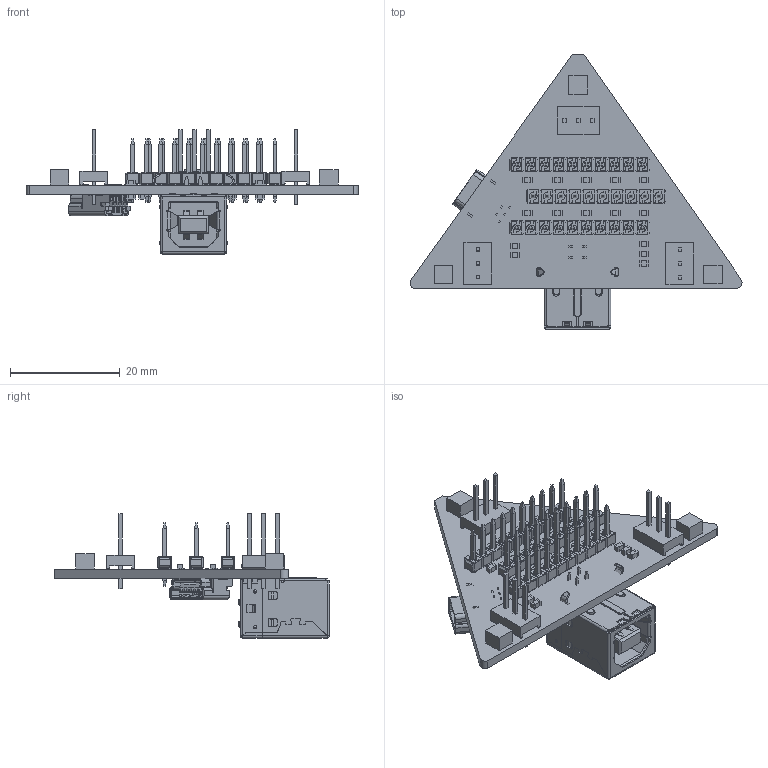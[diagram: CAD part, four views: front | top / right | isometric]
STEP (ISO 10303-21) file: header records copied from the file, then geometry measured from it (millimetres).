
FILE_DESCRIPTION(('Open CASCADE Model'),'2;1');
FILE_NAME('Open CASCADE Shape Model','2019-08-21T21:48:14',('Author'),( 'Open CASCADE'),'Open CASCADE STEP processor 6.5','Open CASCADE 6.5' ,'Unknown');
FILE_SCHEMA(('AUTOMOTIVE_DESIGN { 1 0 10303 214 1 1 1 1 }'));
Length unit declared in the file: millimetre
Products named in the file (62): PCB; Board; R30; 1089753584; Extruded; 1089753072; R29; R28; R27; R26; R25; R24; R23; R22; R21; R20; R19; R18; R17; R16; R15; R14; R13; R12; R11; R10; R9; R8; R7; R6; R5; R4; R3; R2; R1; LED3; 1090105536; LED2; LED1; J6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
Assembly tree (157 placements, depth 4):
  PCB
    Board
    R30
      1089753584  x2
        Extruded
      1089753072
        Extruded
    R29
      1089753584  x2
        Extruded
      1089753072
        Extruded
    R28
      1089753584  x2
        Extruded
      1089753072
        Extruded
    R27
      1089753584  x2
        Extruded
      1089753072
        Extruded
    R26
      1089753584  x2
        Extruded
      1089753072
        Extruded
    R25
      1089753584  x2
        Extruded
      1089753072
        Extruded
    R24
      1089753584  x2
        Extruded
      1089753072
        Extruded
    R23
      1089753584  x2
        Extruded
      1089753072
        Extruded
    R22
      1089753584  x2
        Extruded
      1089753072
        Extruded
    R21
      1089753584  x2
        Extruded
      1089753072
        Extruded
    R20
      1089753584  x2
        Extruded
      1089753072
        Extruded
    R19
      1089753584  x2
        Extruded
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Bounding box: 60.41 x 49.95 x 22.6 mm (x, y, z)
Volume: 4408.3 mm3; surface area: 9908.2 mm2
Topology: 107 solids, 108 shells, 3707 faces, 9542 edges, 6308 vertices
Faces by surface type: plane 3173, cylinder 455, bspline 33, sphere 16, torus 14, revolution 8, cone 8
Entity records: 141809 total; most frequent: CARTESIAN_POINT 35582, DIRECTION 17772, LINE 12157, VECTOR 12157, ORIENTED_EDGE 10066, PCURVE 10066, DEFINITIONAL_REPRESENTATION 10066, EDGE_CURVE 5040
